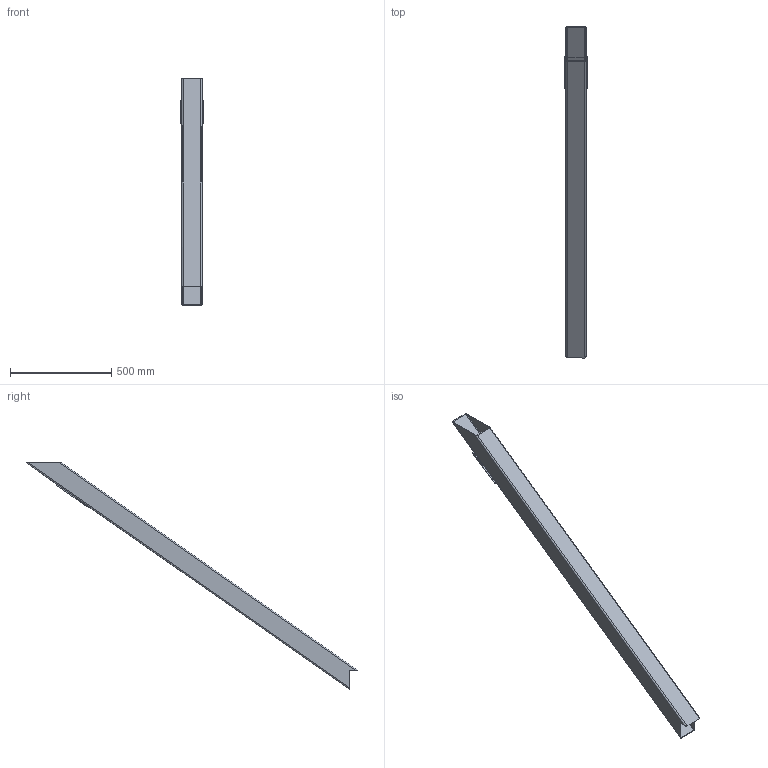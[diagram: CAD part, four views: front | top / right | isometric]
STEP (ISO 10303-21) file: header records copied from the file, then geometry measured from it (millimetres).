
FILE_DESCRIPTION(/* description */ (''),/* implementation_level */ '2;1');
FILE_NAME(/* name */ '2020TOMO-TELAIO-ASSY.00_v12-Part_04.stp',/* time_stamp */ '2022-05-16T13:31:54+02:00',/* author */ (''),/* organization */ (''),/* preprocessor_version */ 'ST-DEVELOPER v18.102',/* originating_system */ 'SIEMENS PLM Software NX 2000',/* authorisation */ '');
FILE_SCHEMA (('AUTOMOTIVE_DESIGN { 1 0 10303 214 3 1 1 1 }'));
Length unit declared in the file: millimetre
Products named in the file (1): turc3144724Fyy55
Bounding box: 110 x 1633.91 x 1115.61 mm (x, y, z)
Volume: 2216844.1 mm3; surface area: 1457515.6 mm2
Topology: 2 solids, 2 shells, 33 faces, 98 edges, 68 vertices
Faces by surface type: plane 17, cylinder 16
Full cylindrical faces by diameter (mm): 6.8 x8
Entity records: 1166 total; most frequent: DIRECTION 198, CARTESIAN_POINT 184, ORIENTED_EDGE 164, EDGE_CURVE 82, AXIS2_PLACEMENT_3D 74, VERTEX_POINT 60, EDGE_LOOP 58, LINE 50
